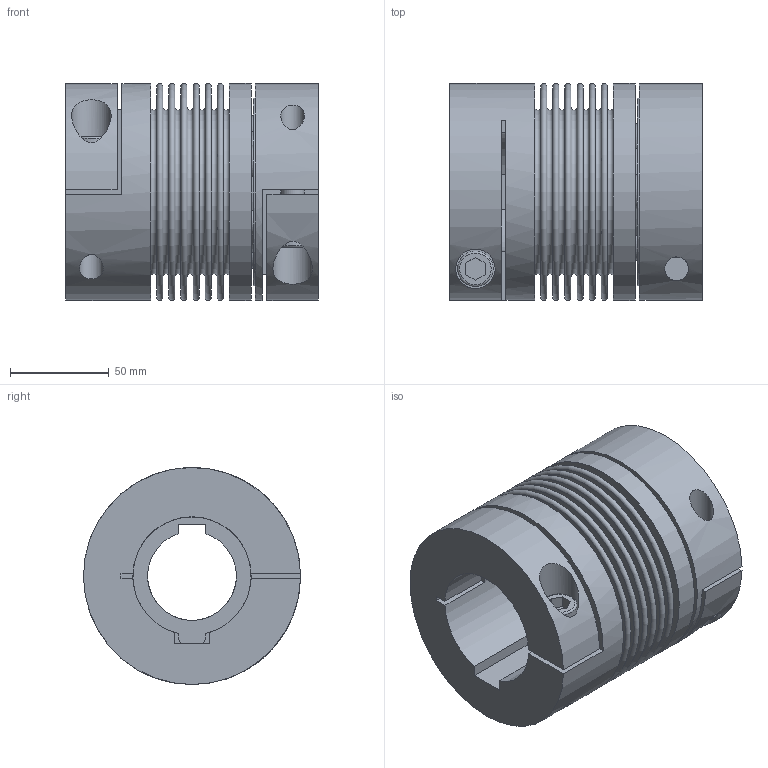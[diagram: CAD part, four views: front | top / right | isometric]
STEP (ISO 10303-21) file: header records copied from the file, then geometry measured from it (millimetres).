
FILE_DESCRIPTION(/* description */ ('STEP AP214'),/* implementation_level */ '2;1');
FILE_NAME(/* name */ 'C:\Diequa Files\DieQua Coupling\BCB\STP\BCB.300.128.#.#.stp',/* time_stamp */ '2018-11-27T09:02:06-06:00',/* author */ ('DiequaCAD'),/* organization */ (''),/* preprocessor_version */ 'ST-DEVELOPER v17.2',/* originating_system */ 'Autodesk Inventor 2019',/* authorisation */ ' ');
FILE_SCHEMA (('AUTOMOTIVE_DESIGN { 1 0 10303 214 3 1 1 }'));
Length unit declared in the file: millimetre
Products named in the file (3): BK5_300_128_60_PFN_45_PFN_92; 2018_11_09__18-13-53-918; 2018_11_09__18-13-53-918_1
Assembly tree (2 placements, depth 2):
  BK5_300_128_60_PFN_45_PFN_92
    2018_11_09__18-13-53-918
    2018_11_09__18-13-53-918_1
Bounding box: 128 x 110 x 110 mm (x, y, z)
Volume: 709884 mm3; surface area: 180139.2 mm2
Topology: 2 solids, 2 shells, 124 faces, 313 edges, 218 vertices
Faces by surface type: plane 65, cone 23, cylinder 21, torus 15
Full cylindrical faces by diameter (mm): 12 x3, 18 x2, 20 x2, 78 x1, 92 x1, 95 x1, 110 x3
Entity records: 4149 total; most frequent: CARTESIAN_POINT 888, DIRECTION 706, ORIENTED_EDGE 626, EDGE_CURVE 313, AXIS2_PLACEMENT_3D 294, VERTEX_POINT 218, CIRCLE 165, EDGE_LOOP 155
